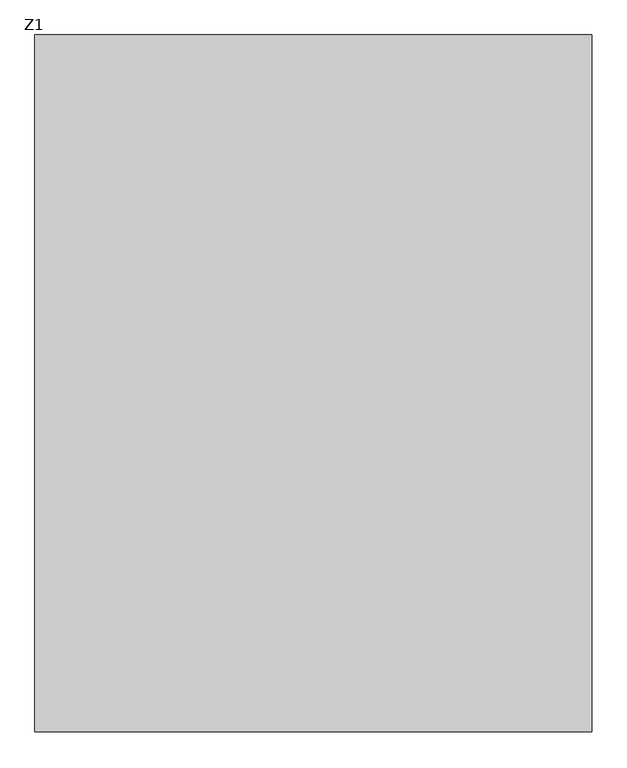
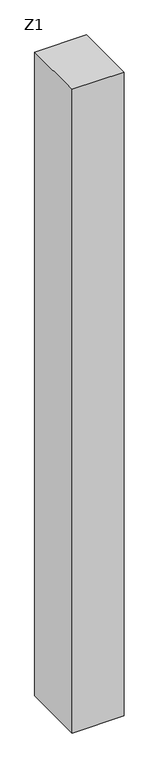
"""IFC4 building model written with IfcOpenShell, lengths in millimetres: column geometry, 混凝土 - 正方形 - 柱 : Z1."""

from ifc_helpers import new_model, si_unit, frame, origin, place, context, project, spatial, polyline, outline, extrude, source, transform, mapped, element, save


def z1_3beb1efb(model_context):
    return source(origin(), model_context, "Body", "SweptSolid", [
        extrude(outline(polyline([(400.0, 500.0), (400.0, -500.0), (-400.0, -500.0), (-400.0, 500.0), (400.0, 500.0)])), frame((0.0, 0.0, -400.0), z_axis=(0.0, 0.0, 1.0), x_axis=(1.0, 0.0, 0.0)), (0.0, 0.0, 1.0), 10480.0),
    ])


if __name__ == "__main__":
    model = new_model("IFC4")
    model_context = context("Model", 3, world=origin())
    ifc_project = project(units=[si_unit("LENGTHUNIT", "METRE", prefix="MILLI")], contexts=[model_context])
    site = spatial("IfcSite", under=ifc_project)
    building = spatial("IfcBuilding", under=site)
    placement = place(None, origin())
    z1_shape = z1_3beb1efb(model_context)
    element("IfcColumn", 1, ObjectType="混凝土 - 正方形 - 柱 : Z1", at=placement, inside=building, context=model_context, shape_type="MappedRepresentation", body=[
        mapped(z1_shape, transform((0.0, 0.0, 0.0), x_axis=(1.0, 0.0, 0.0), y_axis=(0.0, 1.0, 0.0), z_axis=(0.0, 0.0, 1.0))),
    ])
    save(model, "model.ifc")
